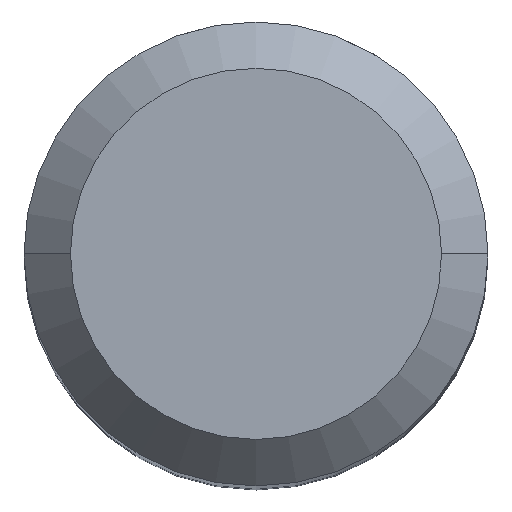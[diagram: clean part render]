
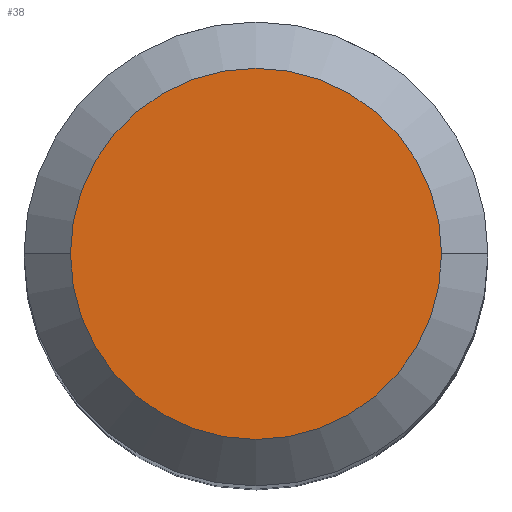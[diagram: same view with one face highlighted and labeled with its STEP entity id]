
A CAD part, top view. The second image highlights one B-rep face of the part: STEP entity #38.
In plain terms, the highlighted planar face has unit normal (0, 0, 1).
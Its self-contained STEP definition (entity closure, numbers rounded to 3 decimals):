
#38 = ADVANCED_FACE ( 'NONE', ( #75 ), #89, .T. ) ;
#72 = EDGE_CURVE ( 'NONE', #434, #177, #440, .T. ) ;
#75 = FACE_OUTER_BOUND ( 'NONE', #247, .T. ) ;
#89 = PLANE ( 'NONE',  #155 ) ;
#106 = DIRECTION ( 'NONE',  ( 0., 0., -1. ) ) ;
#117 = DIRECTION ( 'NONE',  ( -1., 0., 0. ) ) ;
#128 = CARTESIAN_POINT ( 'NONE',  ( -6.4, 0., 0. ) ) ;
#155 = AXIS2_PLACEMENT_3D ( 'NONE', #474, #310, #269 ) ;
#173 = AXIS2_PLACEMENT_3D ( 'NONE', #287, #106, #416 ) ;
#177 = VERTEX_POINT ( 'NONE', #128 ) ;
#184 = EDGE_CURVE ( 'NONE', #177, #434, #368, .T. ) ;
#225 = AXIS2_PLACEMENT_3D ( 'NONE', #348, #324, #117 ) ;
#247 = EDGE_LOOP ( 'NONE', ( #325, #364 ) ) ;
#269 = DIRECTION ( 'NONE',  ( 1., 0., 0. ) ) ;
#287 = CARTESIAN_POINT ( 'NONE',  ( 0., 0., 0. ) ) ;
#310 = DIRECTION ( 'NONE',  ( 0., 0., 1. ) ) ;
#324 = DIRECTION ( 'NONE',  ( 0., 0., -1. ) ) ;
#325 = ORIENTED_EDGE ( 'NONE', *, *, #184, .F. ) ;
#348 = CARTESIAN_POINT ( 'NONE',  ( 0., 0., 0. ) ) ;
#364 = ORIENTED_EDGE ( 'NONE', *, *, #72, .F. ) ;
#366 = CARTESIAN_POINT ( 'NONE',  ( 6.4, 0., 0. ) ) ;
#368 = CIRCLE ( 'NONE', #173, 6.4 ) ;
#416 = DIRECTION ( 'NONE',  ( -1., 0., 0. ) ) ;
#434 = VERTEX_POINT ( 'NONE', #366 ) ;
#440 = CIRCLE ( 'NONE', #225, 6.4 ) ;
#474 = CARTESIAN_POINT ( 'NONE',  ( 0., 6.4, 0. ) ) ;
